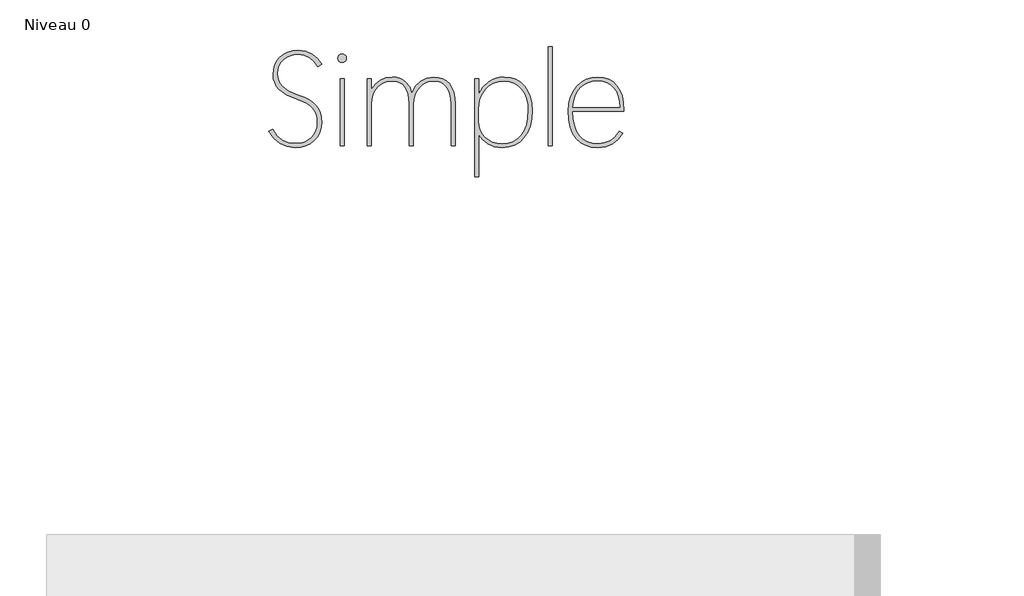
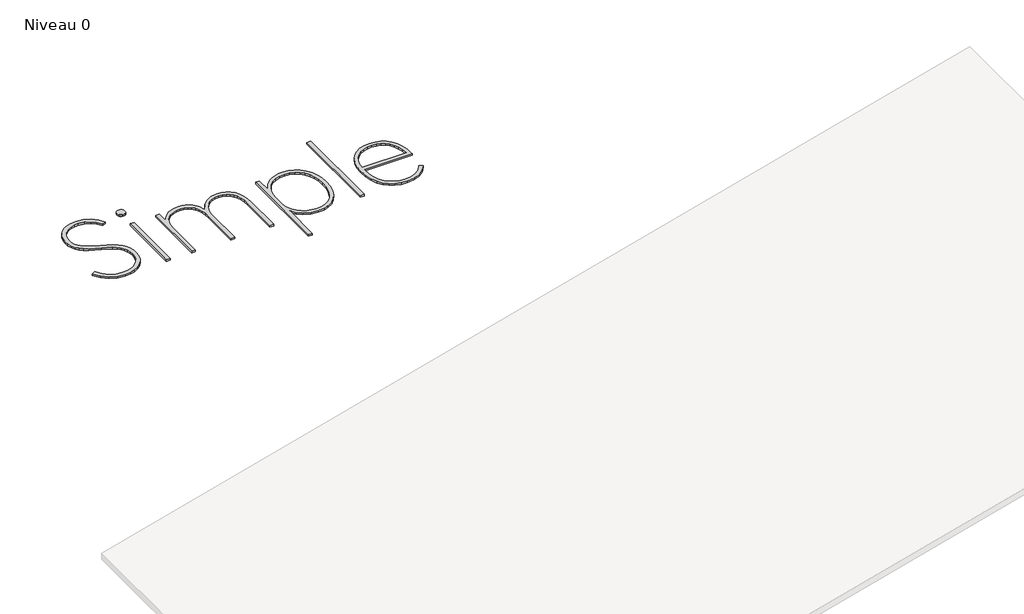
# One storey, part 24 of 26: 1 proxy.
"""IFC4 building model written with IfcOpenShell, lengths in millimetres."""

import ifcopenshell
import ifcopenshell.guid

model = None  # the IFC model being written
_history = None  # IfcOwnerHistory: only IFC2X3 demands one
_inside = {}  # id of a spatial element -> (the spatial element, [elements in it])
_under = {}  # id of a project, library or spatial element -> (it, [spatial elements below it])
_declared = {}  # id of a project -> (the project, [libraries it declares])
_typed = {}  # id of a type object -> (the type object, [elements of that type])
_made_of = {}  # id of a material, layer set ... -> (it, [elements and type objects made of it])


def new_model(schema):
    """Start an empty IFC model of exactly this schema.

    Asked for "IFC4X3", IfcOpenShell would pick the latest addendum, in which some entities
    have other attributes; the version numbers below select the first issue.
    IFC2X3 requires an IfcOwnerHistory on every rooted entity: one is made here for all.
    """
    global model, _history
    if schema == "IFC4X3":
        model = ifcopenshell.file(schema_version=(4, 3, 0, 0))
    else:
        model = ifcopenshell.file(schema=schema)
    _inside.clear()
    _under.clear()
    _declared.clear()
    _typed.clear()
    _made_of.clear()
    _history = None
    if model.schema == "IFC2X3":
        org = make("IfcOrganization", Name="unknown")
        user = make(
            "IfcPersonAndOrganization",
            ThePerson=make("IfcPerson", FamilyName="unknown"),
            TheOrganization=org,
        )
        app = make(
            "IfcApplication",
            ApplicationDeveloper=org,
            Version="unknown",
            ApplicationFullName="unknown",
            ApplicationIdentifier="unknown",
        )
        _history = make(
            "IfcOwnerHistory",
            OwningUser=user,
            OwningApplication=app,
            ChangeAction="ADDED",
            CreationDate=0,
        )
    return model


def make(cls, **values):
    """One entity of the class cls with the attributes given. An attribute that is None is left unset."""
    return model.create_entity(
        cls, **{name: value for name, value in values.items() if value is not None}
    )


def rooted(cls, **values):
    """An entity with a GlobalId (a new one), such as an element, a storey or a relation."""
    return make(cls, GlobalId=ifcopenshell.guid.new(), OwnerHistory=_history, **values)


def si_unit(unit_type, name, prefix=None):
    """IfcSIUnit, for example si_unit("LENGTHUNIT", "METRE", prefix="MILLI")."""
    return make("IfcSIUnit", UnitType=unit_type, Prefix=prefix, Name=name)


def assignment(units):
    """IfcUnitAssignment: the units of a project."""
    return None if units is None else make("IfcUnitAssignment", Units=units)


def point(xyz):
    """IfcCartesianPoint."""
    return None if xyz is None else make("IfcCartesianPoint", Coordinates=xyz)


def direction(xyz):
    """IfcDirection."""
    return None if xyz is None else make("IfcDirection", DirectionRatios=xyz)


def frame(location, z_axis=None, x_axis=None):
    """IfcAxis2Placement3D, a coordinate frame: its origin and axes. An axis left out is left unset."""
    return make(
        "IfcAxis2Placement3D",
        Location=point(location),
        Axis=direction(z_axis),
        RefDirection=direction(x_axis),
    )


def origin():
    """The frame at (0, 0, 0) with its axes left unset."""
    return frame((0.0, 0.0, 0.0))


def origin_with_axes():
    """The frame at (0, 0, 0) with the z axis (0, 0, 1) and the x axis (1, 0, 0) written out."""
    return frame((0.0, 0.0, 0.0), z_axis=(0.0, 0.0, 1.0), x_axis=(1.0, 0.0, 0.0))


def place(relative_to, where):
    """IfcLocalPlacement: puts the frame where relative to a parent placement (None: the world)."""
    return make(
        "IfcLocalPlacement", PlacementRelTo=relative_to, RelativePlacement=where
    )


def context(
    kind, dimensions, precision=None, world=None, true_north=None, identifier=None
):
    """IfcGeometricRepresentationContext, for example the 3D "Model" context."""
    return make(
        "IfcGeometricRepresentationContext",
        ContextIdentifier=identifier,
        ContextType=kind,
        CoordinateSpaceDimension=dimensions,
        Precision=precision,
        WorldCoordinateSystem=world,
        TrueNorth=true_north,
    )


def project(units=None, contexts=None):
    """IfcProject with its units and contexts."""
    return rooted(
        "IfcProject",
        Name="project",
        RepresentationContexts=contexts,
        UnitsInContext=assignment(units),
    )


def spatial(cls, under=None, at=None, **own):
    """A site, building, storey or space (cls), placed at a placement, below another one or the project."""
    s = rooted(cls, ObjectPlacement=at, **own)
    if under is not None:
        _under.setdefault(under.id(), (under, []))[1].append(s)
    return s


def polyline(points):
    """IfcPolyline through the points."""
    return make("IfcPolyline", Points=[point(p) for p in points])


def outline(outer, holes=None, kind="AREA"):
    """IfcArbitraryClosedProfileDef: a profile drawn as a closed curve; with holes, ...WithVoids."""
    if holes is None:
        return make("IfcArbitraryClosedProfileDef", ProfileType=kind, OuterCurve=outer)
    return make(
        "IfcArbitraryProfileDefWithVoids",
        ProfileType=kind,
        OuterCurve=outer,
        InnerCurves=holes,
    )


def extrude(swept, where, along, depth):
    """IfcExtrudedAreaSolid: the profile swept, set in the frame where, extruded along a direction by depth."""
    return make(
        "IfcExtrudedAreaSolid",
        SweptArea=swept,
        Position=where,
        ExtrudedDirection=direction(along),
        Depth=depth,
    )


def shape(context_of_items, identifier, shape_type, items):
    """IfcShapeRepresentation: the items that make up one representation, for example the "Body"."""
    return make(
        "IfcShapeRepresentation",
        ContextOfItems=context_of_items,
        RepresentationIdentifier=identifier,
        RepresentationType=shape_type,
        Items=items,
    )


def made_of(thing, what):
    """Note that an element or type object is made of a material, layer set ...; save() writes the relation."""
    if what is not None:
        _made_of.setdefault(what.id(), (what, []))[1].append(thing)
    return thing


def element(
    cls,
    number,
    at=None,
    inside=None,
    cuts=None,
    type_object=None,
    material=None,
    context=None,
    identifier="Body",
    shape_type=None,
    held_by="IfcProductDefinitionShape",
    body=None,
    shapes=None,
    **own,
):
    """One element of the class cls, such as IfcWall. Its Tag is "e" and its number.

    at: its placement. inside: the storey or other place that contains it. cuts: it is an
    opening in that element (IfcRelVoidsElement). A single representation is given by context,
    identifier, shape_type and body (its items); several are given by shapes. held_by: the class
    of the entity that holds the representations. save() writes the other relations.
    """
    e = rooted(cls, Tag="e%d" % number, ObjectPlacement=at, **own)
    if body is not None:
        shapes = [shape(context, identifier, shape_type, body)]
    if shapes is not None:
        e.Representation = make(held_by, Representations=shapes)
    if inside is not None:
        _inside.setdefault(inside.id(), (inside, []))[1].append(e)
    if cuts is not None:
        rooted(
            "IfcRelVoidsElement", RelatingBuildingElement=cuts, RelatedOpeningElement=e
        )
    if type_object is not None:
        _typed.setdefault(type_object.id(), (type_object, []))[1].append(e)
    return made_of(e, material)


def aggregate(whole, parts):
    """IfcRelAggregates: a whole, such as a stair, and the parts it consists of."""
    return rooted("IfcRelAggregates", RelatingObject=whole, RelatedObjects=parts)


def save(model, path):
    """Write the relations noted so far, then the file.

    IfcRelAggregates (storeys below a building ...), IfcRelContainedInSpatialStructure (elements
    in a storey), IfcRelDefinesByType, IfcRelAssociatesMaterial and IfcRelDeclares: one each for
    every whole, place, type object, material and project.
    """
    for whole, parts in _under.values():
        aggregate(whole, parts)
    for where, things in _inside.values():
        rooted(
            "IfcRelContainedInSpatialStructure",
            RelatedElements=things,
            RelatingStructure=where,
        )
    for kind, things in _typed.values():
        rooted("IfcRelDefinesByType", RelatedObjects=things, RelatingType=kind)
    for what, things in _made_of.values():
        rooted("IfcRelAssociatesMaterial", RelatedObjects=things, RelatingMaterial=what)
    for by, libraries in _declared.values():
        rooted("IfcRelDeclares", RelatingContext=by, RelatedDefinitions=libraries)
    model.write(path)


model = new_model("IFC4")

# Units and contexts
model_context = context("Model", 3, world=origin())
ifc_project = project(units=[si_unit("LENGTHUNIT", "METRE", prefix="MILLI")], contexts=[model_context])

# Site, building, storey
site = spatial("IfcSite", under=ifc_project)
building = spatial("IfcBuilding", under=site)
storey = spatial("IfcBuildingStorey", under=building, Name="Niveau 0", Elevation=0.0)

# Proxy
placement = place(None, origin())
element("IfcBuildingElementProxy", 1, Name="5 mm", ObjectType="5 mm", at=placement, inside=storey, context=model_context, shape_type="SweptSolid", body=[
    extrude(outline(polyline([(-6001.4389289, 5698.401499), (-5980.552647, 5709.9715976), (-5958.5018422, 5676.0501722), (-5931.1167712, 5652.4216267), (-5898.3598687, 5638.5600475), (-5860.1935695, 5633.9395212), (-5835.5977187, 5635.8553492), (-5813.1994353, 5641.6028332), (-5792.9987194, 5651.1819733), (-5774.9955708, 5664.5927694), (-5760.2042516, 5681.2341774), (-5749.6390236, 5700.5051533), (-5743.2998868, 5722.405697), (-5741.1868412, 5746.9358086), (-5742.7457993, 5769.3857443), (-5747.4226736, 5789.5535906), (-5755.217464, 5807.4393477), (-5766.1301706, 5823.0430156), (-5780.7430549, 5836.9092904), (-5799.6383782, 5849.5828683), (-5850.2763422, 5871.3519337), (-5908.6527487, 5896.1825674), (-5930.9101623, 5910.3164946), (-5948.5470496, 5925.5961621), (-5961.9578457, 5942.5193096), (-5971.5369858, 5961.5836766), (-5977.2844698, 5982.7892631), (-5979.2002978, 6006.1360692), (-5976.8900346, 6032.4740087), (-5969.9592451, 6056.4922937), (-5958.4079291, 6078.1909242), (-5942.2360868, 6097.5699002), (-5922.3452842, 6113.5116554), (-5899.6370874, 6124.8986233), (-5874.1114965, 6131.7308041), (-5845.7685115, 6134.0081977), (-5803.5639474, 6128.7302794), (-5768.0084334, 6112.8965243), (-5739.6278831, 6088.6857174), (-5718.9482101, 6058.2766433), (-5739.684231, 6047.0070668), (-5757.1896399, 6073.9413547), (-5781.4567947, 6094.6398103), (-5811.4338683, 6107.8252149), (-5846.0690336, 6112.2203497), (-5867.9367077, 6110.4688697), (-5888.160902, 6105.2144296), (-5906.7416163, 6096.4570295), (-5923.6788507, 6084.1966694), (-5937.7799084, 6068.9404801), (-5947.8520924, 6051.1955927), (-5953.8954028, 6030.9620072), (-5955.9098396, 6008.2397235), (-5954.2710554, 5988.5555298), (-5949.3547026, 5970.6744683), (-5941.1607813, 5954.5965391), (-5929.6892915, 5940.3217422), (-5895.0729089, 5915.2281517), (-5843.6648572, 5893.4403037), (-5812.0724777, 5881.3349003), (-5785.3635813, 5867.858365), (-5763.538168, 5853.0106979), (-5746.5962379, 5836.791899), (-5733.908573, 5818.6290981), (-5724.8459552, 5797.9494251), (-5719.4083845, 5774.7528801), (-5717.595861, 5749.0394629), (-5720.1127331, 5720.161173), (-5727.6633493, 5694.0814947), (-5740.2477098, 5670.8004278), (-5757.8658145, 5650.3179724), (-5779.3625317, 5633.6202165), (-5803.58273, 5621.693248), (-5830.5264093, 5614.5370669), (-5860.1935695, 5612.1516732), (-5905.2530931, 5617.6925483), (-5943.9640885, 5634.3151737), (-5976.1011643, 5661.4185053), (-6001.4389289, 5698.401499)])), origin_with_axes(), (0.0, 0.0, 1.0), 10.0),
    extrude(outline(polyline([(-5608.656621, 6069.2456978), (-5617.7661954, 6070.8234386), (-5625.2604638, 6075.5566607), (-5630.2754254, 6082.8443202), (-5631.9470792, 6092.085373), (-5630.2754254, 6101.3452084), (-5625.2604638, 6108.6892157), (-5617.7661954, 6113.4787858), (-5608.656621, 6115.0753091), (-5599.0023505, 6113.4787858), (-5591.6771257, 6108.6892157), (-5587.0565993, 6101.3452084), (-5585.5164239, 6092.085373), (-5587.0565993, 6082.8443202), (-5591.6771257, 6075.5566607), (-5599.0023505, 6070.8234386), (-5608.656621, 6069.2456978)])), origin_with_axes(), (0.0, 0.0, 1.0), 10.0),
    extrude(outline(polyline([(-5597.3870445, 5620.5662903), (-5619.3251535, 5620.5662903), (-5619.3251535, 5981.1927398), (-5597.3870445, 5981.1927398), (-5597.3870445, 5620.5662903)])), origin_with_axes(), (0.0, 0.0, 1.0), 10.0),
    extrude(outline(polyline([(-5001.7523588, 5620.5662903), (-5023.2396848, 5620.5662903), (-5023.2396848, 5845.2065161), (-5024.8033385, 5874.8408068), (-5029.4942997, 5900.3335281), (-5037.3125685, 5921.68468), (-5048.2581447, 5938.8942625), (-5061.9741585, 5952.1407106), (-5078.1037399, 5961.6024592), (-5096.646889, 5967.2795084), (-5117.6036057, 5969.1718581), (-5139.865715, 5966.9508124), (-5160.2213877, 5960.2876753), (-5178.6706236, 5949.1824467), (-5195.2134228, 5933.6351267), (-5208.8543061, 5914.6505859), (-5218.5977942, 5893.2336948), (-5224.443887, 5869.3844535), (-5226.3925846, 5843.1028618), (-5226.3925846, 5620.5662903), (-5248.1804326, 5620.5662903), (-5248.1804326, 5847.0096484), (-5249.6219993, 5874.4510673), (-5253.9466993, 5898.6243089), (-5261.1545326, 5919.5293734), (-5271.2454993, 5937.1662607), (-5284.182034, 5951.1687096), (-5299.9265716, 5961.1704588), (-5318.479112, 5967.1715083), (-5339.8396552, 5969.1718581), (-5363.3508092, 5967.0400299), (-5384.5986567, 5960.6445452), (-5403.5831975, 5949.9854041), (-5420.3044317, 5935.0626064), (-5433.945315, 5916.6838054), (-5443.688803, 5895.6566538), (-5449.5348959, 5871.9811517), (-5451.4835935, 5845.6572992), (-5451.4835935, 5620.5662903), (-5473.2714415, 5620.5662903), (-5473.2714415, 5981.1927398), (-5451.4835935, 5981.1927398), (-5451.4835935, 5922.4406807), (-5429.7333107, 5951.7415797), (-5403.7005889, 5972.9283836), (-5372.934645, 5985.7757009), (-5338.0365229, 5990.05814), (-5317.9907636, 5988.5837037), (-5299.7763106, 5984.1603949), (-5283.3931636, 5976.7882136), (-5268.8413229, 5966.4671597), (-5246.4336482, 5938.969393), (-5233.7553746, 5903.6580531), (-5214.9351818, 5940.0024375), (-5187.3247193, 5967.2935954), (-5153.8165117, 5984.3670038), (-5117.3030837, 5990.05814), (-5090.9228832, 5987.7760507), (-5067.8296426, 5980.929783), (-5048.0233618, 5969.5193367), (-5031.5040409, 5953.544712), (-5018.48768, 5933.193735), (-5009.1902793, 5908.6542321), (-5003.6118389, 5879.9262032), (-5001.7523588, 5847.0096484), (-5001.7523588, 5620.5662903)])), origin_with_axes(), (0.0, 0.0, 1.0), 10.0),
    extrude(outline(polyline([(-4873.4294472, 5681.8727867), (-4874.4812744, 5454.6781236), (-4896.2691224, 5454.6781236), (-4896.2691224, 5981.1927398), (-4874.4812744, 5981.1927398), (-4874.4812744, 5899.1502225), (-4852.0172518, 5935.58852), (-4821.7396561, 5964.6640275), (-4803.389029, 5975.7739517), (-4783.0474433, 5983.7096119), (-4760.7148991, 5988.471008), (-4736.3913964, 5990.05814), (-4703.9819726, 5986.9637021), (-4675.1224653, 5977.6803884), (-4649.8128746, 5962.2081989), (-4628.0532006, 5940.5471337), (-4610.5665743, 5913.9368461), (-4598.076127, 5883.6169895), (-4590.5818586, 5849.587564), (-4588.0837691, 5811.8485695), (-4590.8166414, 5766.8453939), (-4599.0152583, 5727.2516149), (-4612.6796199, 5693.0672328), (-4631.8097261, 5664.2922473), (-4655.4946195, 5641.4807461), (-4682.8233426, 5625.1868167), (-4713.7958955, 5615.4104591), (-4748.4122781, 5612.1516732), (-4790.5980596, 5617.0351563), (-4825.7967037, 5631.6856058), (-4853.5574272, 5653.9993674), (-4873.4294472, 5681.8727867)]), holes=[polyline([(-4874.4812744, 5817.8590104), (-4874.4812744, 5753.6975546), (-4872.26962, 5729.5947477), (-4865.6346568, 5707.3232471), (-4854.5763848, 5686.8830526), (-4839.094804, 5668.2741644), (-4820.1290458, 5652.7925836), (-4798.6182416, 5641.7343116), (-4774.5623913, 5635.0993484), (-4747.961495, 5632.887694), (-4718.5197263, 5635.7144795), (-4692.1019606, 5644.1948358), (-4668.708198, 5658.3287631), (-4648.3384384, 5678.1162612), (-4631.8379, 5703.4070692), (-4620.0518012, 5734.0509261), (-4612.980142, 5770.0478319), (-4610.6229222, 5811.3977865), (-4612.7829244, 5845.3849511), (-4619.2629309, 5875.8221991), (-4630.0629417, 5902.7095304), (-4645.1829569, 5926.0469452), (-4663.9092366, 5944.9140946), (-4685.528041, 5958.3906299), (-4710.0393699, 5966.4765511), (-4737.4432236, 5969.1718581), (-4767.9133412, 5966.3873336), (-4794.8617161, 5958.03376), (-4818.2883483, 5944.1111373), (-4838.1932379, 5924.6194655), (-4854.0692538, 5901.2397898), (-4865.4092652, 5875.6531554), (-4872.2132721, 5847.8595623), (-4874.4812744, 5817.8590104)])]), origin_with_axes(), (0.0, 0.0, 1.0), 10.0),
    extrude(outline(polyline([(-4501.9842043, 5620.5662903), (-4501.9842043, 6154.4436965), (-4480.1963563, 6154.4436965), (-4480.1963563, 5620.5662903), (-4501.9842043, 5620.5662903)])), origin_with_axes(), (0.0, 0.0, 1.0), 10.0),
    extrude(outline(polyline([(-4095.8286656, 5807.641261), (-4371.2571164, 5807.641261), (-4369.3929406, 5766.4086978), (-4362.7485861, 5730.7639663), (-4351.3240529, 5700.7070665), (-4335.1193409, 5676.2379985), (-4314.9514946, 5657.2534576), (-4291.6375581, 5643.6501396), (-4265.1775315, 5635.4280444), (-4235.5714148, 5632.587172), (-4199.3585088, 5636.8132632), (-4167.3529114, 5649.4915368), (-4140.343493, 5670.6219928), (-4119.1191238, 5700.2046312), (-4100.0359742, 5689.9868818), (-4124.2279985, 5656.1593696), (-4155.3320298, 5631.6104753), (-4192.6718934, 5616.6782864), (-4235.5714148, 5611.7008901), (-4269.74171, 5614.8892411), (-4300.2775668, 5624.0035112), (-4327.1789851, 5639.0437002), (-4350.445965, 5660.0098082), (-4369.2145056, 5687.2493139), (-4382.6206061, 5721.1096957), (-4390.6642663, 5761.5909538), (-4393.3454864, 5808.6930881), (-4390.5656575, 5847.6905186), (-4382.2261709, 5882.6402929), (-4368.3270265, 5913.5424109), (-4348.8682243, 5940.3968727), (-4325.1082004, 5962.1236771), (-4298.3053909, 5977.6428232), (-4268.4597957, 5986.9543108), (-4235.5714148, 5990.05814), (-4204.2232093, 5987.2172676), (-4176.5939642, 5978.6946503), (-4152.6836793, 5964.4902882), (-4132.4923546, 5944.6041812), (-4116.4519907, 5919.3274602), (-4104.9945879, 5888.9512557), (-4098.1201462, 5853.4755679), (-4095.8286656, 5812.9003967), (-4095.8286656, 5807.641261)]), holes=[polyline([(-4118.0672967, 5827.9264988), (-4120.6311253, 5860.7256622), (-4126.9702621, 5889.2517778), (-4137.0847071, 5913.5048456), (-4150.9744602, 5933.4848657), (-4168.1417818, 5949.0979249), (-4188.0889323, 5960.25011), (-4210.8159116, 5966.9414211), (-4236.3227199, 5969.1718581), (-4262.9142249, 5966.8850732), (-4287.0921622, 5960.0247185), (-4308.8565319, 5948.590794), (-4328.207334, 5932.5832996), (-4344.4402199, 5912.3215401), (-4356.850841, 5888.1248201), (-4365.4391975, 5859.9931397), (-4370.2052892, 5827.9264988), (-4118.0672967, 5827.9264988)])]), origin_with_axes(), (0.0, 0.0, 1.0), 10.0),
])

save(model, "model.ifc")
